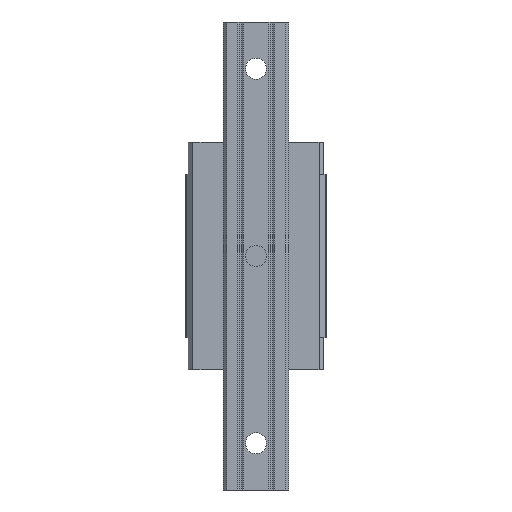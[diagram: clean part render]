
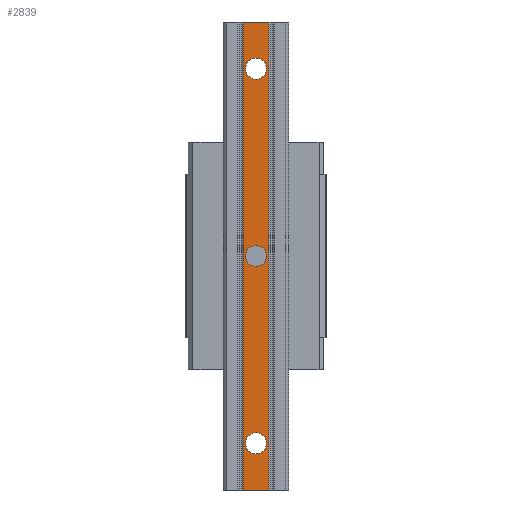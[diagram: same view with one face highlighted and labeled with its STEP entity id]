
A CAD part, front view. The second image highlights one B-rep face of the part: STEP entity #2839.
In plain terms, the highlighted planar face has unit normal (0, -1, 0).
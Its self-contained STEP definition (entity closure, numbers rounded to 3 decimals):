
#45 = CARTESIAN_POINT ( 'NONE',  ( 4.5, -26., 0. ) ) ;
#107 = ORIENTED_EDGE ( 'NONE', *, *, #12840, .F. ) ;
#117 = DIRECTION ( 'NONE',  ( 0., 1., 0. ) ) ;
#287 = EDGE_LOOP ( 'NONE', ( #2527, #3335 ) ) ;
#360 = VERTEX_POINT ( 'NONE', #4485 ) ;
#536 = DIRECTION ( 'NONE',  ( 0., 1., 0. ) ) ;
#636 = AXIS2_PLACEMENT_3D ( 'NONE', #10033, #536, #12328 ) ;
#836 = FACE_BOUND ( 'NONE', #287, .T. ) ;
#1098 = CIRCLE ( 'NONE', #636, 4.5 ) ;
#1332 = CIRCLE ( 'NONE', #10235, 4.5 ) ;
#1363 = CARTESIAN_POINT ( 'NONE',  ( 0., -26., 80. ) ) ;
#1782 = CARTESIAN_POINT ( 'NONE',  ( 4.5, -26., 80. ) ) ;
#2019 = CARTESIAN_POINT ( 'NONE',  ( -5.55, -26., -100. ) ) ;
#2087 = ORIENTED_EDGE ( 'NONE', *, *, #9987, .T. ) ;
#2160 = LINE ( 'NONE', #6391, #6408 ) ;
#2235 = VERTEX_POINT ( 'NONE', #10129 ) ;
#2257 = VECTOR ( 'NONE', #4956, 1000. ) ;
#2488 = EDGE_CURVE ( 'NONE', #10655, #10912, #6983, .T. ) ;
#2527 = ORIENTED_EDGE ( 'NONE', *, *, #2488, .T. ) ;
#2736 = CARTESIAN_POINT ( 'NONE',  ( 0., -26., -100. ) ) ;
#2804 = EDGE_CURVE ( 'NONE', #360, #2235, #6933, .T. ) ;
#2839 = ADVANCED_FACE ( 'NONE', ( #836, #11689, #4041, #7465 ), #13596, .T. ) ;
#2949 = DIRECTION ( 'NONE',  ( -1., 0., 0. ) ) ;
#3212 = CIRCLE ( 'NONE', #8121, 4.5 ) ;
#3335 = ORIENTED_EDGE ( 'NONE', *, *, #11700, .T. ) ;
#3569 = CARTESIAN_POINT ( 'NONE',  ( -5.55, -26., -100. ) ) ;
#3912 = AXIS2_PLACEMENT_3D ( 'NONE', #2019, #4248, #4169 ) ;
#3932 = AXIS2_PLACEMENT_3D ( 'NONE', #1363, #117, #6433 ) ;
#4041 = FACE_BOUND ( 'NONE', #11909, .T. ) ;
#4131 = DIRECTION ( 'NONE',  ( 0., 1., 0. ) ) ;
#4169 = DIRECTION ( 'NONE',  ( 0., 0., -1. ) ) ;
#4248 = DIRECTION ( 'NONE',  ( 0., -1., 0. ) ) ;
#4312 = CARTESIAN_POINT ( 'NONE',  ( -4.5, -26., 0. ) ) ;
#4485 = CARTESIAN_POINT ( 'NONE',  ( 5.55, -26., -100. ) ) ;
#4724 = VERTEX_POINT ( 'NONE', #9591 ) ;
#4813 = LINE ( 'NONE', #2736, #2257 ) ;
#4937 = EDGE_CURVE ( 'NONE', #12068, #360, #4813, .T. ) ;
#4956 = DIRECTION ( 'NONE',  ( 1., 0., 0. ) ) ;
#5202 = CARTESIAN_POINT ( 'NONE',  ( -4.5, -26., -80. ) ) ;
#5495 = LINE ( 'NONE', #3569, #12415 ) ;
#5501 = EDGE_CURVE ( 'NONE', #10613, #10476, #1098, .T. ) ;
#5692 = ORIENTED_EDGE ( 'NONE', *, *, #2804, .T. ) ;
#5716 = CIRCLE ( 'NONE', #8425, 4.5 ) ;
#5911 = EDGE_LOOP ( 'NONE', ( #2087, #9103 ) ) ;
#6099 = EDGE_CURVE ( 'NONE', #10476, #10613, #1332, .T. ) ;
#6391 = CARTESIAN_POINT ( 'NONE',  ( 0., -26., 100. ) ) ;
#6408 = VECTOR ( 'NONE', #10667, 1000. ) ;
#6433 = DIRECTION ( 'NONE',  ( -1., 0., 0. ) ) ;
#6670 = DIRECTION ( 'NONE',  ( -1., 0., 0. ) ) ;
#6933 = LINE ( 'NONE', #7070, #11636 ) ;
#6983 = CIRCLE ( 'NONE', #8785, 4.5 ) ;
#7058 = DIRECTION ( 'NONE',  ( -1., 0., 0. ) ) ;
#7070 = CARTESIAN_POINT ( 'NONE',  ( 5.55, -26., -100. ) ) ;
#7465 = FACE_OUTER_BOUND ( 'NONE', #11510, .T. ) ;
#7611 = EDGE_CURVE ( 'NONE', #4724, #12068, #5495, .T. ) ;
#7819 = DIRECTION ( 'NONE',  ( 0., 1., 0. ) ) ;
#8099 = DIRECTION ( 'NONE',  ( 0., 1., 0. ) ) ;
#8121 = AXIS2_PLACEMENT_3D ( 'NONE', #12331, #8099, #6670 ) ;
#8132 = CARTESIAN_POINT ( 'NONE',  ( 0., -26., 0. ) ) ;
#8175 = CARTESIAN_POINT ( 'NONE',  ( -4.5, -26., 80. ) ) ;
#8395 = DIRECTION ( 'NONE',  ( 0., 1., 0. ) ) ;
#8425 = AXIS2_PLACEMENT_3D ( 'NONE', #8132, #4131, #7058 ) ;
#8757 = DIRECTION ( 'NONE',  ( 0., 0., -1. ) ) ;
#8785 = AXIS2_PLACEMENT_3D ( 'NONE', #9840, #7819, #11069 ) ;
#9103 = ORIENTED_EDGE ( 'NONE', *, *, #11000, .T. ) ;
#9206 = VERTEX_POINT ( 'NONE', #8175 ) ;
#9591 = CARTESIAN_POINT ( 'NONE',  ( -5.55, -26., 100. ) ) ;
#9840 = CARTESIAN_POINT ( 'NONE',  ( 0., -26., 0. ) ) ;
#9946 = CIRCLE ( 'NONE', #3932, 4.5 ) ;
#9987 = EDGE_CURVE ( 'NONE', #9206, #11705, #3212, .T. ) ;
#10033 = CARTESIAN_POINT ( 'NONE',  ( 0., -26., -80. ) ) ;
#10129 = CARTESIAN_POINT ( 'NONE',  ( 5.55, -26., 100. ) ) ;
#10148 = CARTESIAN_POINT ( 'NONE',  ( -5.55, -26., -100. ) ) ;
#10235 = AXIS2_PLACEMENT_3D ( 'NONE', #10474, #8395, #2949 ) ;
#10474 = CARTESIAN_POINT ( 'NONE',  ( 0., -26., -80. ) ) ;
#10476 = VERTEX_POINT ( 'NONE', #13608 ) ;
#10613 = VERTEX_POINT ( 'NONE', #5202 ) ;
#10655 = VERTEX_POINT ( 'NONE', #4312 ) ;
#10667 = DIRECTION ( 'NONE',  ( 1., 0., 0. ) ) ;
#10912 = VERTEX_POINT ( 'NONE', #45 ) ;
#11000 = EDGE_CURVE ( 'NONE', #11705, #9206, #9946, .T. ) ;
#11042 = ORIENTED_EDGE ( 'NONE', *, *, #4937, .T. ) ;
#11069 = DIRECTION ( 'NONE',  ( -1., 0., 0. ) ) ;
#11328 = DIRECTION ( 'NONE',  ( 0., 0., 1. ) ) ;
#11510 = EDGE_LOOP ( 'NONE', ( #11881, #11042, #5692, #107 ) ) ;
#11636 = VECTOR ( 'NONE', #11328, 1000. ) ;
#11689 = FACE_BOUND ( 'NONE', #5911, .T. ) ;
#11700 = EDGE_CURVE ( 'NONE', #10912, #10655, #5716, .T. ) ;
#11705 = VERTEX_POINT ( 'NONE', #1782 ) ;
#11881 = ORIENTED_EDGE ( 'NONE', *, *, #7611, .T. ) ;
#11909 = EDGE_LOOP ( 'NONE', ( #12953, #12247 ) ) ;
#12068 = VERTEX_POINT ( 'NONE', #10148 ) ;
#12247 = ORIENTED_EDGE ( 'NONE', *, *, #6099, .T. ) ;
#12328 = DIRECTION ( 'NONE',  ( -1., 0., 0. ) ) ;
#12331 = CARTESIAN_POINT ( 'NONE',  ( 0., -26., 80. ) ) ;
#12415 = VECTOR ( 'NONE', #8757, 1000. ) ;
#12840 = EDGE_CURVE ( 'NONE', #4724, #2235, #2160, .T. ) ;
#12953 = ORIENTED_EDGE ( 'NONE', *, *, #5501, .T. ) ;
#13596 = PLANE ( 'NONE',  #3912 ) ;
#13608 = CARTESIAN_POINT ( 'NONE',  ( 4.5, -26., -80. ) ) ;
